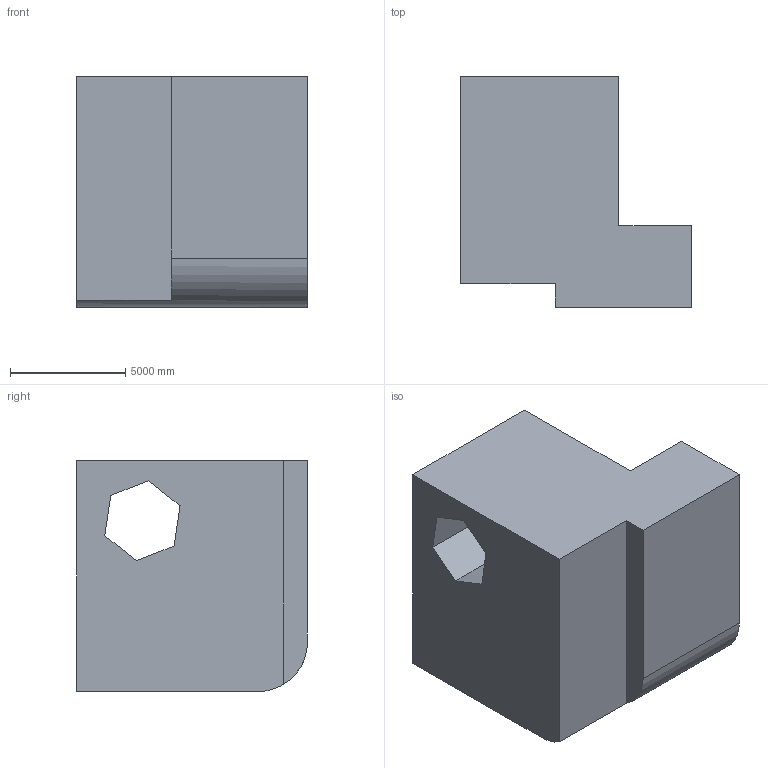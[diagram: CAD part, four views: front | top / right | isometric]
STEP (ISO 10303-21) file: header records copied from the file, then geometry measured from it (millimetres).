
FILE_DESCRIPTION (( 'STEP AP203' ), '1' );
FILE_NAME ('276.STEP', '2022-09-07T12:34:17', ( 'user' ), ( '' ), 'SwSTEP 2.0', 'SolidWorks 2021', '' );
FILE_SCHEMA (( 'CONFIG_CONTROL_DESIGN' ));
Length unit declared in the file: centimetre
Products named in the file (1): 276
Bounding box: 10000 x 10000 x 10000 mm (x, y, z)
Volume: 673909382212.3 mm3; surface area: 595367748.8 mm2
Topology: 1 solids, 1 shells, 18 faces, 48 edges, 32 vertices
Faces by surface type: plane 17, cylinder 1
Entity records: 636 total; most frequent: CARTESIAN_POINT 99, ORIENTED_EDGE 96, DIRECTION 89, EDGE_CURVE 48, VECTOR 45, LINE 45, VERTEX_POINT 32, AXIS2_PLACEMENT_3D 22
